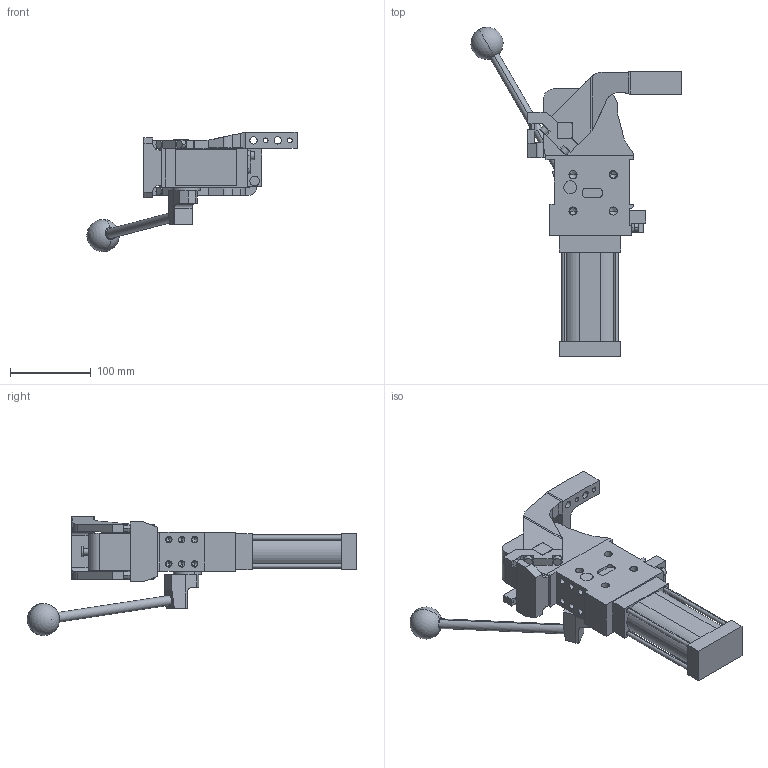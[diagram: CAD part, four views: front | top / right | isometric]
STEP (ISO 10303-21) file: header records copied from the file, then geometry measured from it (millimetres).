
FILE_DESCRIPTION (( 'STEP AP214' ), '1' );
FILE_NAME ('cplm50lbtv3ssi1g_26.STEP', '2023-01-26T14:02:32', ( '' ), ( '' ), 'SwSTEP 2.0', 'SolidWorks 2022', '' );
FILE_SCHEMA (( 'AUTOMOTIVE_DESIGN' ));
Length unit declared in the file: millimetre
Products named in the file (5): meccanica_cplm_50_tassello_esterno; comando_manuale_cplm_50; cplm50lbtv3ssi1g_26; blocchetto_VEP_0; leva_v3ss_cpl50t
Assembly tree (4 placements, depth 2):
  cplm50lbtv3ssi1g_26
    meccanica_cplm_50_tassello_esterno
    blocchetto_VEP_0
    leva_v3ss_cpl50t
    comando_manuale_cplm_50
Bounding box: 260.54 x 408.46 x 148 mm (x, y, z)
Volume: 1523891.4 mm3; surface area: 194396.9 mm2
Topology: 4 solids, 4 shells, 470 faces, 1219 edges, 765 vertices
Faces by surface type: plane 245, cylinder 173, cone 50, sphere 2
Entity records: 15621 total; most frequent: CARTESIAN_POINT 2510, DIRECTION 2469, ORIENTED_EDGE 2336, EDGE_CURVE 1168, AXIS2_PLACEMENT_3D 839, VECTOR 791, LINE 791, VERTEX_POINT 762
